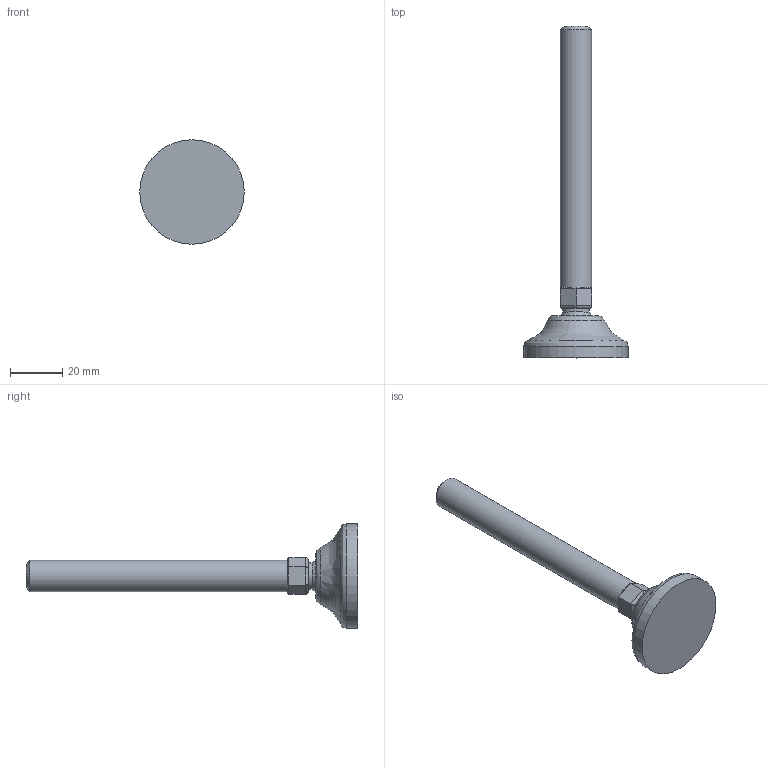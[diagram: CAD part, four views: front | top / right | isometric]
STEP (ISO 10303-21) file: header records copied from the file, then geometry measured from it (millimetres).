
FILE_DESCRIPTION(('STEP AP203'),'2;1');
FILE_NAME('10234-12.stp','2015-07-01T14:06:56',(''),(''),'2008.1.107','THINKDESIGN','');
FILE_SCHEMA(('CONFIG_CONTROL_DESIGN'));
Length unit declared in the file: millimetre
Bounding box: 40 x 127 x 40 mm (x, y, z)
Volume: 25814.7 mm3; surface area: 8384.1 mm2
Topology: 4 solids, 4 shells, 34 faces, 72 edges, 46 vertices
Faces by surface type: cylinder 15, plane 14, bspline 5
Full cylindrical faces by diameter (mm): 10.163 x1, 12 x1, 39.997 x1
Entity records: 1225 total; most frequent: CARTESIAN_POINT 419, DIRECTION 144, ORIENTED_EDGE 144, EDGE_CURVE 72, AXIS2_PLACEMENT_3D 55, VERTEX_POINT 46, EDGE_LOOP 34, FACE_OUTER_BOUND 34
